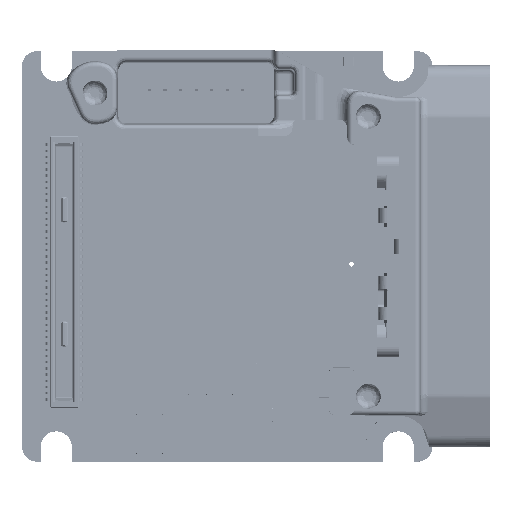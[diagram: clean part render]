
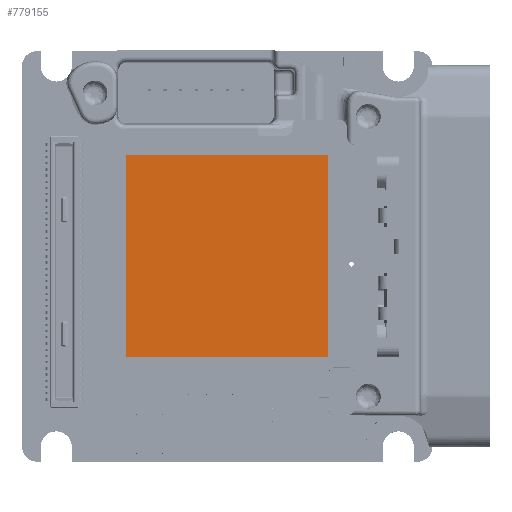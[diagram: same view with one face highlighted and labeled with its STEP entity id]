
A CAD part, top view. The second image highlights one B-rep face of the part: STEP entity #779155.
In plain terms, the highlighted planar face has unit normal (0, 0, 1).
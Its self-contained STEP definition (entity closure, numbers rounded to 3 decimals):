
#9121 = EDGE_LOOP ( 'NONE', ( #599879, #508117, #434998, #199681 ) ) ;
#59925 = CARTESIAN_POINT ( 'NONE',  ( 6.5, 6.5, 6.162 ) ) ;
#107869 = EDGE_CURVE ( 'NONE', #313730, #775284, #186995, .T. ) ;
#125957 = DIRECTION ( 'NONE',  ( 0., 1., 0. ) ) ;
#172057 = FACE_OUTER_BOUND ( 'NONE', #9121, .T. ) ;
#177395 = EDGE_CURVE ( 'NONE', #231830, #313730, #378121, .T. ) ;
#186995 = LINE ( 'NONE', #626879, #477839 ) ;
#199681 = ORIENTED_EDGE ( 'NONE', *, *, #107869, .F. ) ;
#228696 = CARTESIAN_POINT ( 'NONE',  ( -6.5, 6.5, 6.162 ) ) ;
#231830 = VERTEX_POINT ( 'NONE', #471287 ) ;
#252135 = DIRECTION ( 'NONE',  ( 0., -1., 0. ) ) ;
#266303 = VECTOR ( 'NONE', #630960, 1000. ) ;
#281083 = AXIS2_PLACEMENT_3D ( 'NONE', #803122, #428316, #619953 ) ;
#297109 = EDGE_CURVE ( 'NONE', #675996, #231830, #378369, .T. ) ;
#306798 = VECTOR ( 'NONE', #252135, 1000. ) ;
#313730 = VERTEX_POINT ( 'NONE', #346545 ) ;
#324750 = EDGE_CURVE ( 'NONE', #775284, #675996, #660630, .T. ) ;
#346545 = CARTESIAN_POINT ( 'NONE',  ( -6.5, -6.5, 6.162 ) ) ;
#378121 = LINE ( 'NONE', #806042, #266303 ) ;
#378369 = LINE ( 'NONE', #745253, #306798 ) ;
#420030 = DIRECTION ( 'NONE',  ( 1., 0., 0. ) ) ;
#428316 = DIRECTION ( 'NONE',  ( 0., 0., 1. ) ) ;
#434998 = ORIENTED_EDGE ( 'NONE', *, *, #324750, .F. ) ;
#471287 = CARTESIAN_POINT ( 'NONE',  ( 6.5, -6.5, 6.162 ) ) ;
#477839 = VECTOR ( 'NONE', #125957, 1000. ) ;
#508117 = ORIENTED_EDGE ( 'NONE', *, *, #297109, .F. ) ;
#599879 = ORIENTED_EDGE ( 'NONE', *, *, #177395, .F. ) ;
#619953 = DIRECTION ( 'NONE',  ( 1., 0., 0. ) ) ;
#626879 = CARTESIAN_POINT ( 'NONE',  ( -6.5, -6.5, 6.162 ) ) ;
#630960 = DIRECTION ( 'NONE',  ( -1., 0., 0. ) ) ;
#633711 = CARTESIAN_POINT ( 'NONE',  ( -6.5, 6.5, 6.162 ) ) ;
#660630 = LINE ( 'NONE', #228696, #666702 ) ;
#666702 = VECTOR ( 'NONE', #420030, 1000. ) ;
#675996 = VERTEX_POINT ( 'NONE', #59925 ) ;
#730083 = PLANE ( 'NONE',  #281083 ) ;
#745253 = CARTESIAN_POINT ( 'NONE',  ( 6.5, 6.5, 6.162 ) ) ;
#775284 = VERTEX_POINT ( 'NONE', #633711 ) ;
#779155 = ADVANCED_FACE ( 'NONE', ( #172057 ), #730083, .T. ) ;
#803122 = CARTESIAN_POINT ( 'NONE',  ( -6.5, -6.5, 6.162 ) ) ;
#806042 = CARTESIAN_POINT ( 'NONE',  ( 6.5, -6.5, 6.162 ) ) ;
